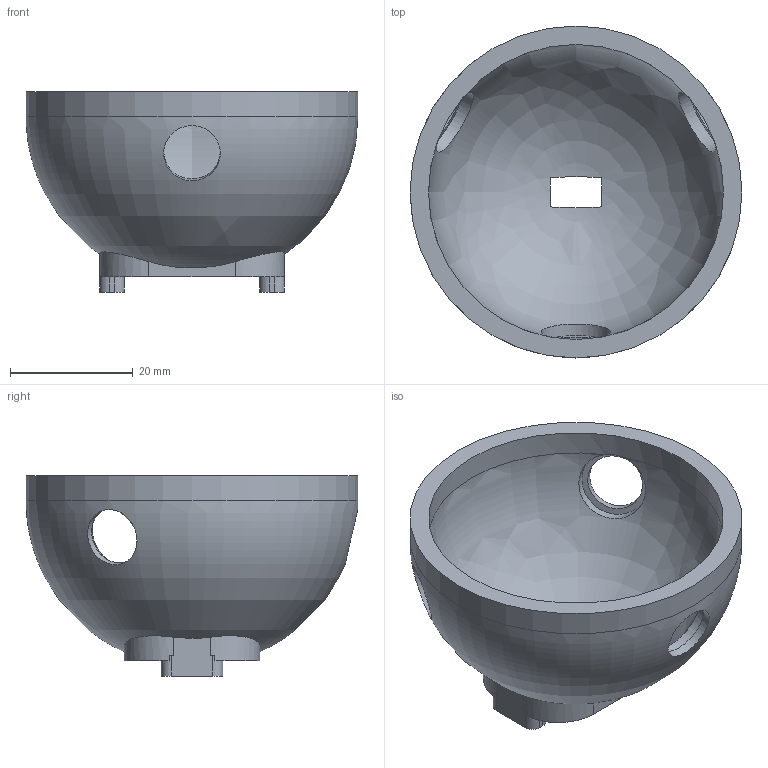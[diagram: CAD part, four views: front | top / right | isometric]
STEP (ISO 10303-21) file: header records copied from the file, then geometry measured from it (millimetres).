
FILE_DESCRIPTION(('Open CASCADE Model'),'2;1');
FILE_NAME('Open CASCADE Shape Model','2026-05-31T19:43:07',('Author'),( 'Open CASCADE'),'Open CASCADE STEP processor 7.6','Open CASCADE 7.6' ,'Unknown');
FILE_SCHEMA(('AP242_MANAGED_MODEL_BASED_3D_ENGINEERING_MIM_LF. {1 0 10303 442 1 1 4 }'));
Length unit declared in the file: millimetre
Products named in the file (1): Open CASCADE STEP translator 7.6 6
Bounding box: 54 x 54 x 32.6 mm (x, y, z)
Volume: 13793.7 mm3; surface area: 10322.9 mm2
Topology: 1 solids, 1 shells, 71 faces, 204 edges, 135 vertices
Faces by surface type: plane 35, cylinder 28, bspline 4, revolution 2, cone 2
Full cylindrical faces by diameter (mm): 2.05 x2, 9.2 x3, 11.2 x3, 48 x1, 54 x1
Entity records: 8105 total; most frequent: CARTESIAN_POINT 4155, DIRECTION 714, ORIENTED_EDGE 404, PCURVE 404, DEFINITIONAL_REPRESENTATION 404, LINE 388, VECTOR 388, EDGE_CURVE 202
